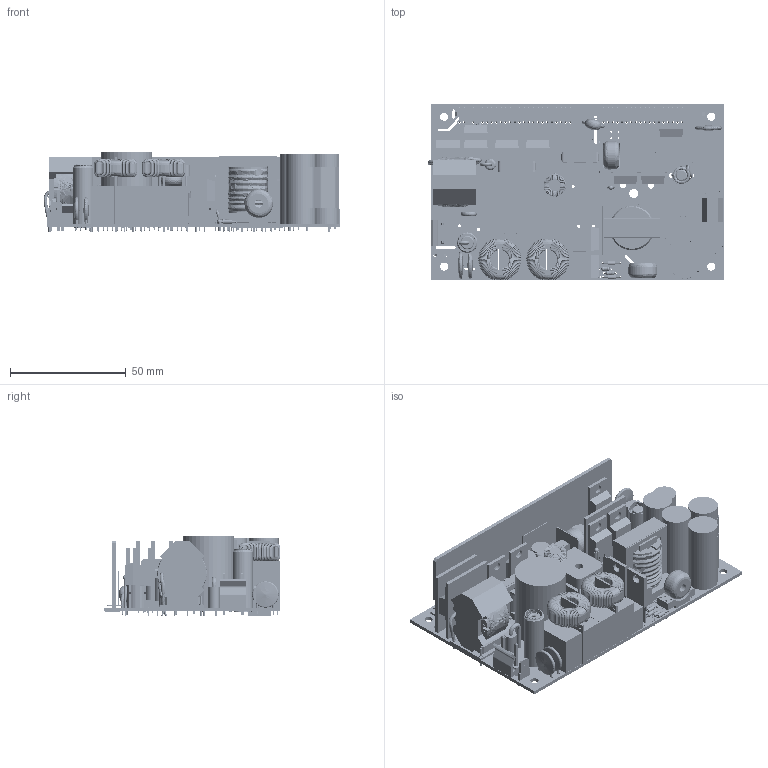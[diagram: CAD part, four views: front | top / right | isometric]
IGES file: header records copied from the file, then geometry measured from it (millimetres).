
Start section: SolidWorks IGES file using analytic representation for surfaces
Global section: file name: H:\Solidworks\PROJECTS\EMA200\IGES\EMA.IGS; native system: SolidWorks 2011; preprocessor: SolidWorks 2011; author: mbeeson; date: 110126.102722; units: millimetre
Bounding box: 128.42 x 76.48 x 34.6 mm (x, y, z)
Surface area: 114140.7 mm2 (no closed solid volume)
Topology: 0 solids, 0 shells, 6148 faces, 52160 edges, 52126 vertices
Faces by surface type: bspline 3646, revolution 2502
